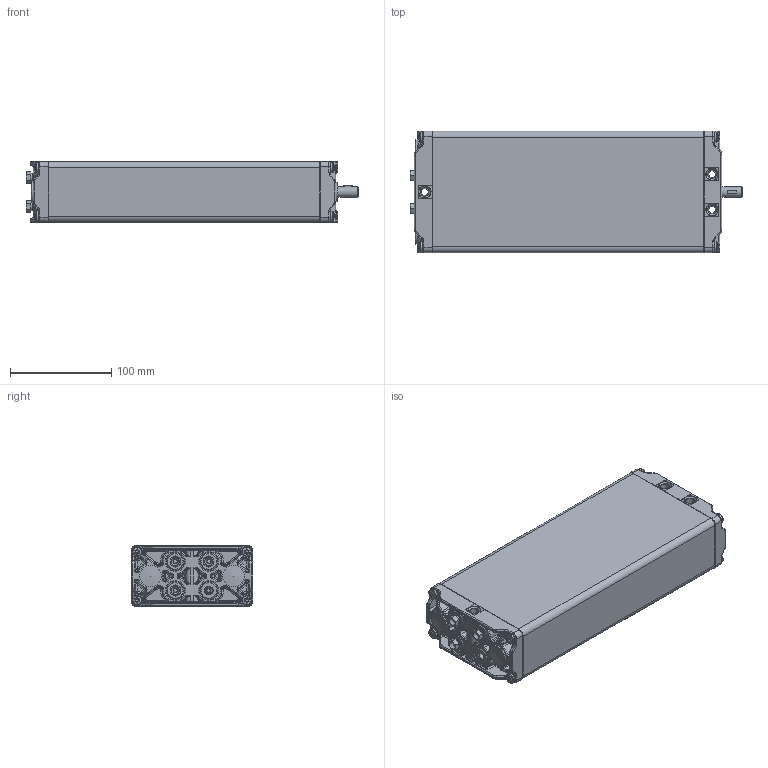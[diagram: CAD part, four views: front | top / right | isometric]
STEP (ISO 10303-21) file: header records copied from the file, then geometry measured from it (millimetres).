
FILE_DESCRIPTION(/* description */ ('Unknown'),/* implementation_level */ '2;1');
FILE_NAME(/* name */ '102.20021 Pumpe PB 3815 W',/* time_stamp */ '2017-09-27T11:23:13+02:00',/* author */ ('Unknown'),/* organization */ ('Unknown'),/* preprocessor_version */ 'ST-DEVELOPER v16.7',/* originating_system */ 'DEX',/* authorisation */ $);
FILE_SCHEMA (('AUTOMOTIVE_DESIGN {1 0 10303 214 3 1 1}'));
Products named in the file (15): 102.20021; 115.00031; 125.00045; 115.00008; 142.00021; 125.00021; 142.00013; 125.00141; 115.00140; 126.00006; 122.00040; 119.00041; 126.00005; 142.00057; 142.00110
Assembly tree (25 placements, depth 3):
  102.20021
    115.00031  x3
      125.00045
      115.00008
      142.00021
      125.00021
    142.00013  x8
    125.00045
    125.00141
    115.00140
      126.00006
      122.00040
    119.00041
    126.00005
    142.00057
    142.00110  x2
Bounding box: 327.47 x 120 x 60.3 mm (x, y, z)
Volume: 453512 mm3; surface area: 293747.8 mm2
Topology: 26 solids, 26 shells, 2488 faces, 5894 edges, 3386 vertices
Faces by surface type: bspline 704, plane 656, cylinder 557, cone 339, torus 173, sphere 59
Full cylindrical faces by diameter (mm): 3.5 x4, 4.1 x3, 4.2 x4, 5 x8, 6.917 x8, 8 x7, 9.8 x8, 10 x3, 10.4 x1, 14 x1, 14.4 x4, 15.8 x2, 17.3 x4, 17.9 x8, 18 x3, 19 x1, 21.2 x2
Entity records: 97754 total; most frequent: CARTESIAN_POINT 54090, ORIENTED_EDGE 8250, DIRECTION 6589, EDGE_CURVE 4125, AXIS2_PLACEMENT_3D 2652, VERTEX_POINT 2527, FACE_BOUND 1996, EDGE_LOOP 1995
